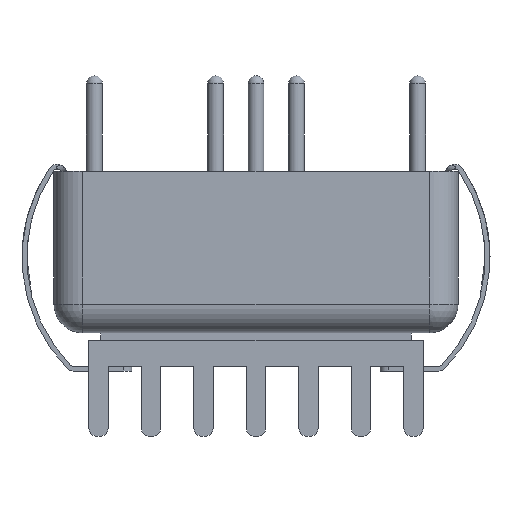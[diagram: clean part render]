
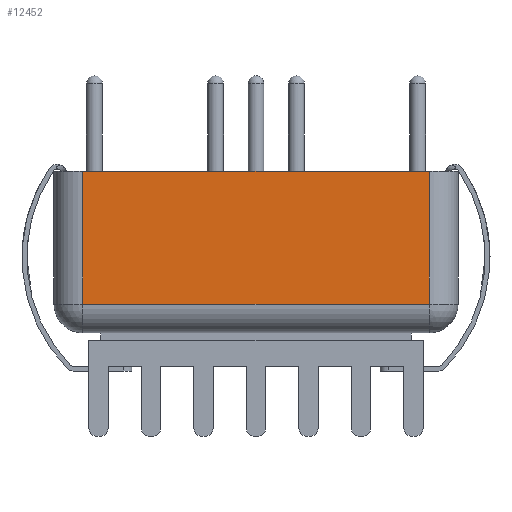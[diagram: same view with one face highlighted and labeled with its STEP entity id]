
A CAD part, front view. The second image highlights one B-rep face of the part: STEP entity #12452.
In plain terms, the highlighted planar face has unit normal (0, -1, 0).
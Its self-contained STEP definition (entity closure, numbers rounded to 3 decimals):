
#860 = CARTESIAN_POINT ( 'NONE',  ( -10.9, -12.7, 10.16 ) ) ;
#920 = DIRECTION ( 'NONE',  ( 1., 0., 0. ) ) ;
#921 = VECTOR ( 'NONE', #920, 1000. ) ;
#922 = CARTESIAN_POINT ( 'NONE',  ( 0., -12.7, 10.16 ) ) ;
#923 = LINE ( 'NONE', #922, #921 ) ;
#924 = CARTESIAN_POINT ( 'NONE',  ( 10.9, -12.7, 10.16 ) ) ;
#925 = DIRECTION ( 'NONE',  ( 0., 0., -1. ) ) ;
#926 = VECTOR ( 'NONE', #925, 1000. ) ;
#927 = CARTESIAN_POINT ( 'NONE',  ( 10.9, -12.7, 0. ) ) ;
#928 = DIRECTION ( 'NONE',  ( 0., 0., -1. ) ) ;
#929 = DIRECTION ( 'NONE',  ( 0., -1., 0. ) ) ;
#930 = CARTESIAN_POINT ( 'NONE',  ( -12.7, -12.7, 0. ) ) ;
#931 = LINE ( 'NONE', #927, #926 ) ;
#933 = AXIS2_PLACEMENT_3D ( 'NONE', #930, #929, #928 ) ;
#934 = PLANE ( 'NONE',  #933 ) ;
#935 = FACE_OUTER_BOUND ( 'NONE', #12454, .T. ) ;
#936 = DIRECTION ( 'NONE',  ( 0., 0., -1. ) ) ;
#937 = VECTOR ( 'NONE', #936, 1000. ) ;
#938 = CARTESIAN_POINT ( 'NONE',  ( -10.9, -12.7, 0. ) ) ;
#939 = LINE ( 'NONE', #938, #937 ) ;
#2037 = CARTESIAN_POINT ( 'NONE',  ( 10.9, -12.7, 1.8 ) ) ;
#2152 = DIRECTION ( 'NONE',  ( 1., 0., 0. ) ) ;
#2153 = VECTOR ( 'NONE', #2152, 1000. ) ;
#2154 = CARTESIAN_POINT ( 'NONE',  ( -12.7, -12.7, 1.8 ) ) ;
#2155 = LINE ( 'NONE', #2154, #2153 ) ;
#2203 = CARTESIAN_POINT ( 'NONE',  ( -10.9, -12.7, 1.8 ) ) ;
#12424 = VERTEX_POINT ( 'NONE', #860 ) ;
#12448 = EDGE_CURVE ( 'NONE', #12424, #13115, #939, .T. ) ;
#12450 = ORIENTED_EDGE ( 'NONE', *, *, #12458, .F. ) ;
#12452 = ADVANCED_FACE ( 'NONE', ( #935 ), #934, .T. ) ;
#12453 = ORIENTED_EDGE ( 'NONE', *, *, #12460, .F. ) ;
#12454 = EDGE_LOOP ( 'NONE', ( #12455, #12457, #12450, #12453 ) ) ;
#12455 = ORIENTED_EDGE ( 'NONE', *, *, #12448, .T. ) ;
#12457 = ORIENTED_EDGE ( 'NONE', *, *, #13108, .T. ) ;
#12458 = EDGE_CURVE ( 'NONE', #12459, #13044, #931, .T. ) ;
#12459 = VERTEX_POINT ( 'NONE', #924 ) ;
#12460 = EDGE_CURVE ( 'NONE', #12424, #12459, #923, .T. ) ;
#13044 = VERTEX_POINT ( 'NONE', #2037 ) ;
#13108 = EDGE_CURVE ( 'NONE', #13115, #13044, #2155, .T. ) ;
#13115 = VERTEX_POINT ( 'NONE', #2203 ) ;
